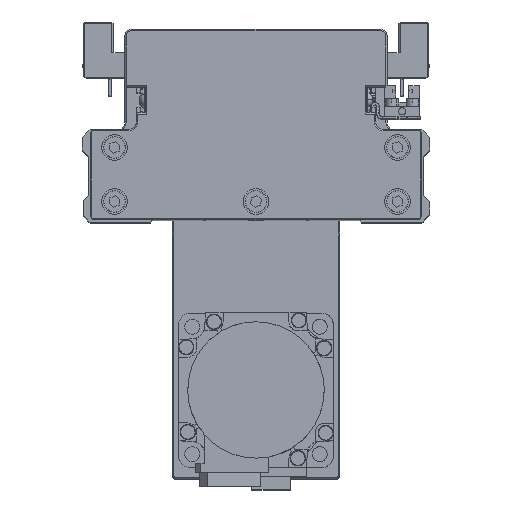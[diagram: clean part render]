
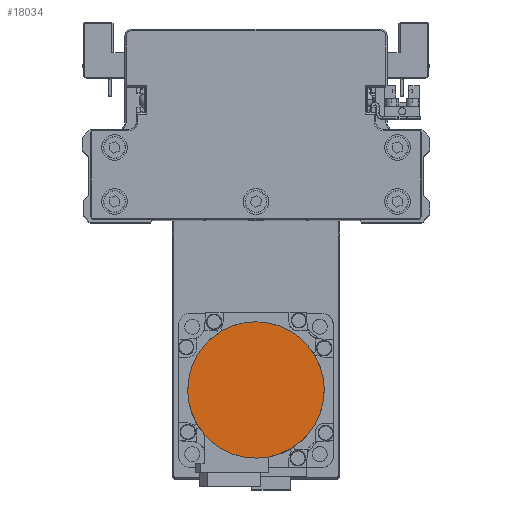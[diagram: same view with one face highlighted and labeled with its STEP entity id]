
A CAD part, top view. The second image highlights one B-rep face of the part: STEP entity #18034.
In plain terms, the highlighted planar face has unit normal (0, 0, 1) as drawn and (0, 0, -1) by its records, which use the part's own axes.
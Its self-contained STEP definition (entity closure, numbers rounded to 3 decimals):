
#1165 = CARTESIAN_POINT ( 'NONE',  ( -17.512, -19.965, -109.7 ) ) ;
#1342 = CARTESIAN_POINT ( 'NONE',  ( 19.965, 17.512, -109.7 ) ) ;
#1353 = CARTESIAN_POINT ( 'NONE',  ( 13.28, -22.998, -109.7 ) ) ;
#1533 = CARTESIAN_POINT ( 'NONE',  ( -11.744, 23.819, -109.7 ) ) ;
#2516 = DIRECTION ( 'NONE',  ( 1., 0., 0. ) ) ;
#4178 = CARTESIAN_POINT ( 'NONE',  ( -22.998, -13.28, -109.7 ) ) ;
#4355 = CARTESIAN_POINT ( 'NONE',  ( 23.819, 11.744, -109.7 ) ) ;
#4368 = CARTESIAN_POINT ( 'NONE',  ( 6.871, -25.652, -109.7 ) ) ;
#4543 = CARTESIAN_POINT ( 'NONE',  ( -3.469, 26.329, -109.7 ) ) ;
#4555 = CARTESIAN_POINT ( 'NONE',  ( 26.5, -1.734, -109.7 ) ) ;
#4742 = CARTESIAN_POINT ( 'NONE',  ( -26.329, 3.469, -109.7 ) ) ;
#5547 = PLANE ( 'NONE',  #22486 ) ;
#6084 = VERTEX_POINT ( 'NONE', #7507 ) ;
#7169 = CARTESIAN_POINT ( 'NONE',  ( -25.652, -6.871, -109.7 ) ) ;
#7369 = CARTESIAN_POINT ( 'NONE',  ( 26.329, 3.469, -109.7 ) ) ;
#7385 = CARTESIAN_POINT ( 'NONE',  ( -1.734, -26.5, -109.7 ) ) ;
#7507 = CARTESIAN_POINT ( 'NONE',  ( 26.5, 0., -109.7 ) ) ;
#7562 = CARTESIAN_POINT ( 'NONE',  ( 3.469, 26.329, -109.7 ) ) ;
#7574 = CARTESIAN_POINT ( 'NONE',  ( 25.147, -8.539, -109.7 ) ) ;
#7747 = CARTESIAN_POINT ( 'NONE',  ( -23.819, 11.744, -109.7 ) ) ;
#10195 = CARTESIAN_POINT ( 'NONE',  ( -26.5, 0., -109.7 ) ) ;
#10392 = CARTESIAN_POINT ( 'NONE',  ( -8.539, -25.147, -109.7 ) ) ;
#10587 = CARTESIAN_POINT ( 'NONE',  ( 11.744, 23.819, -109.7 ) ) ;
#10602 = CARTESIAN_POINT ( 'NONE',  ( 21.07, -16.165, -109.7 ) ) ;
#10779 = CARTESIAN_POINT ( 'NONE',  ( -19.965, 17.512, -109.7 ) ) ;
#13428 = CARTESIAN_POINT ( 'NONE',  ( -16.165, -21.07, -109.7 ) ) ;
#13602 = CARTESIAN_POINT ( 'NONE',  ( 17.512, 19.965, -109.7 ) ) ;
#13620 = CARTESIAN_POINT ( 'NONE',  ( 16.165, -21.07, -109.7 ) ) ;
#13814 = CARTESIAN_POINT ( 'NONE',  ( -13.28, 22.998, -109.7 ) ) ;
#16450 = CARTESIAN_POINT ( 'NONE',  ( -21.07, -16.165, -109.7 ) ) ;
#16624 = CARTESIAN_POINT ( 'NONE',  ( 22.998, 13.28, -109.7 ) ) ;
#16639 = CARTESIAN_POINT ( 'NONE',  ( 8.539, -25.147, -109.7 ) ) ;
#16814 = CARTESIAN_POINT ( 'NONE',  ( -6.871, 25.652, -109.7 ) ) ;
#16827 = CARTESIAN_POINT ( 'NONE',  ( 26.5, 0., -109.7 ) ) ;
#17021 = CARTESIAN_POINT ( 'NONE',  ( -26.5, 1.734, -109.7 ) ) ;
#17812 = CARTESIAN_POINT ( 'NONE',  ( 0., 0., -109.7 ) ) ;
#18034 = ADVANCED_FACE ( 'NONE', ( #33075 ), #5547, .F. ) ;
#19445 = CARTESIAN_POINT ( 'NONE',  ( -25.147, -8.539, -109.7 ) ) ;
#19642 = CARTESIAN_POINT ( 'NONE',  ( 25.652, 6.871, -109.7 ) ) ;
#19654 = CARTESIAN_POINT ( 'NONE',  ( 1.734, -26.5, -109.7 ) ) ;
#19783 = EDGE_LOOP ( 'NONE', ( #25374, #31160 ) ) ;
#19826 = CARTESIAN_POINT ( 'NONE',  ( 1.734, 26.5, -109.7 ) ) ;
#19839 = CARTESIAN_POINT ( 'NONE',  ( 25.652, -6.871, -109.7 ) ) ;
#20020 = CARTESIAN_POINT ( 'NONE',  ( -25.147, 8.539, -109.7 ) ) ;
#22448 = CARTESIAN_POINT ( 'NONE',  ( -26.5, -1.734, -109.7 ) ) ;
#22486 = AXIS2_PLACEMENT_3D ( 'NONE', #17812, #30060, #2516 ) ;
#22624 = CARTESIAN_POINT ( 'NONE',  ( 26.5, 0., -109.7 ) ) ;
#22641 = CARTESIAN_POINT ( 'NONE',  ( -6.871, -25.652, -109.7 ) ) ;
#22839 = CARTESIAN_POINT ( 'NONE',  ( 8.539, 25.147, -109.7 ) ) ;
#22852 = CARTESIAN_POINT ( 'NONE',  ( 22.998, -13.28, -109.7 ) ) ;
#23020 = CARTESIAN_POINT ( 'NONE',  ( -21.07, 16.165, -109.7 ) ) ;
#23411 = EDGE_CURVE ( 'NONE', #6084, #35904, #35561, .T. ) ;
#25374 = ORIENTED_EDGE ( 'NONE', *, *, #23411, .F. ) ;
#25667 = CARTESIAN_POINT ( 'NONE',  ( -13.28, -22.998, -109.7 ) ) ;
#25845 = CARTESIAN_POINT ( 'NONE',  ( 16.165, 21.07, -109.7 ) ) ;
#25867 = CARTESIAN_POINT ( 'NONE',  ( 17.512, -19.965, -109.7 ) ) ;
#26055 = CARTESIAN_POINT ( 'NONE',  ( -16.165, 21.07, -109.7 ) ) ;
#28683 = CARTESIAN_POINT ( 'NONE',  ( -19.965, -17.512, -109.7 ) ) ;
#28860 = CARTESIAN_POINT ( 'NONE',  ( 21.07, 16.165, -109.7 ) ) ;
#28868 = CARTESIAN_POINT ( 'NONE',  ( 11.744, -23.819, -109.7 ) ) ;
#29049 = CARTESIAN_POINT ( 'NONE',  ( -8.539, 25.147, -109.7 ) ) ;
#29072 = CARTESIAN_POINT ( 'NONE',  ( -26.5, 0., -109.7 ) ) ;
#29265 = CARTESIAN_POINT ( 'NONE',  ( -26.5, 0., -109.7 ) ) ;
#29862 = B_SPLINE_CURVE_WITH_KNOTS ( 'NONE', 3,
 ( #10195, #22448, #34695, #7169, #19445, #31696, #4178, #16450, #28683, #1165, #13428, #25667, #37914, #10392, #22641, #34897, #7385, #19654, #31891, #4368, #16639, #28868, #1353, #13620, #25867, #38117, #10602, #22852, #35092, #7574, #19839, #32077, #4555, #16827 ),
 .UNSPECIFIED., .F., .F.,
 ( 4, 2, 2, 2, 2, 2, 2, 2, 2, 2, 2, 2, 2, 2, 2, 2, 4 ),
 ( 0., 0.063, 0.125, 0.188, 0.25, 0.312, 0.375, 0.437, 0.5, 0.562, 0.625, 0.687, 0.75, 0.813, 0.875, 0.938, 1. ),
 .UNSPECIFIED. ) ;
#30060 = DIRECTION ( 'NONE',  ( 0., 0., 1. ) ) ;
#31160 = ORIENTED_EDGE ( 'NONE', *, *, #35903, .F. ) ;
#31696 = CARTESIAN_POINT ( 'NONE',  ( -23.819, -11.744, -109.7 ) ) ;
#31879 = CARTESIAN_POINT ( 'NONE',  ( 25.147, 8.539, -109.7 ) ) ;
#31891 = CARTESIAN_POINT ( 'NONE',  ( 3.469, -26.329, -109.7 ) ) ;
#32066 = CARTESIAN_POINT ( 'NONE',  ( -1.734, 26.5, -109.7 ) ) ;
#32077 = CARTESIAN_POINT ( 'NONE',  ( 26.329, -3.469, -109.7 ) ) ;
#32260 = CARTESIAN_POINT ( 'NONE',  ( -25.652, 6.871, -109.7 ) ) ;
#33075 = FACE_OUTER_BOUND ( 'NONE', #19783, .T. ) ;
#34695 = CARTESIAN_POINT ( 'NONE',  ( -26.329, -3.469, -109.7 ) ) ;
#34880 = CARTESIAN_POINT ( 'NONE',  ( 26.5, 1.734, -109.7 ) ) ;
#34897 = CARTESIAN_POINT ( 'NONE',  ( -3.469, -26.329, -109.7 ) ) ;
#35080 = CARTESIAN_POINT ( 'NONE',  ( 6.871, 25.652, -109.7 ) ) ;
#35092 = CARTESIAN_POINT ( 'NONE',  ( 23.819, -11.744, -109.7 ) ) ;
#35264 = CARTESIAN_POINT ( 'NONE',  ( -22.998, 13.28, -109.7 ) ) ;
#35561 = B_SPLINE_CURVE_WITH_KNOTS ( 'NONE', 3,
 ( #22624, #34880, #7369, #19642, #31879, #4355, #16624, #28860, #1342, #13602, #25845, #38099, #10587, #22839, #35080, #7562, #19826, #32066, #4543, #16814, #29049, #1533, #13814, #26055, #38298, #10779, #23020, #35264, #7747, #20020, #32260, #4742, #17021, #29265 ),
 .UNSPECIFIED., .F., .F.,
 ( 4, 2, 2, 2, 2, 2, 2, 2, 2, 2, 2, 2, 2, 2, 2, 2, 4 ),
 ( 0., 0.062, 0.125, 0.187, 0.25, 0.312, 0.375, 0.437, 0.5, 0.562, 0.625, 0.687, 0.75, 0.813, 0.875, 0.938, 1. ),
 .UNSPECIFIED. ) ;
#35903 = EDGE_CURVE ( 'NONE', #35904, #6084, #29862, .T. ) ;
#35904 = VERTEX_POINT ( 'NONE', #29072 ) ;
#37914 = CARTESIAN_POINT ( 'NONE',  ( -11.744, -23.819, -109.7 ) ) ;
#38099 = CARTESIAN_POINT ( 'NONE',  ( 13.28, 22.998, -109.7 ) ) ;
#38117 = CARTESIAN_POINT ( 'NONE',  ( 19.965, -17.512, -109.7 ) ) ;
#38298 = CARTESIAN_POINT ( 'NONE',  ( -17.512, 19.965, -109.7 ) ) ;
